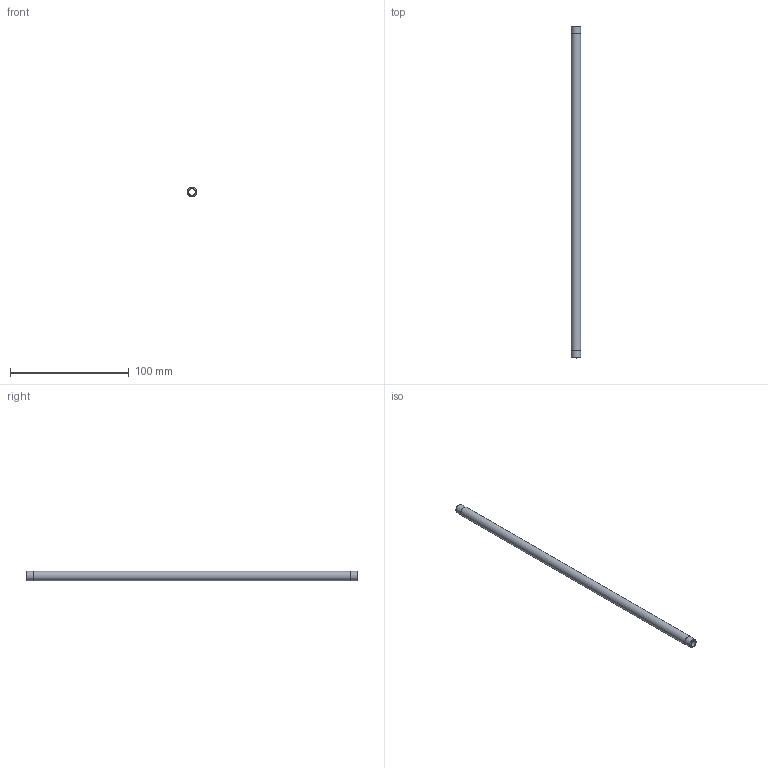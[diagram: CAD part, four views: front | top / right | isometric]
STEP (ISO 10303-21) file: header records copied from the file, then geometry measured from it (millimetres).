
FILE_DESCRIPTION(/* description */ (''),/* implementation_level */ '2;1');
FILE_NAME(/* name */ 'C:/Users/drich/Desktop/BPN16-11 v1.step',/* time_stamp */ '2020-01-03T14:43:46-06:00',/* author */ (''),/* organization */ (''),/* preprocessor_version */ 'ST-DEVELOPER v18',/* originating_system */ 'Autodesk Translation Framework v8.12.0.6',/* authorisation */ '');
FILE_SCHEMA (('AUTOMOTIVE_DESIGN { 1 0 10303 214 3 1 1 }'));
Length unit declared in the file: inch
Products named in the file (1): BPN16-11
Bounding box: 7.92 x 279.4 x 7.92 mm (x, y, z)
Volume: 7575.8 mm3; surface area: 11644.5 mm2
Topology: 1 solids, 1 shells, 10 faces, 24 edges, 18 vertices
Faces by surface type: cylinder 4, plane 4, cone 2
Full cylindrical faces by diameter (mm): 5.309 x1, 7.874 x2, 7.925 x1
Entity records: 360 total; most frequent: DIRECTION 64, CARTESIAN_POINT 53, ORIENTED_EDGE 48, AXIS2_PLACEMENT_3D 29, EDGE_CURVE 24, CIRCLE 18, VERTEX_POINT 18, EDGE_LOOP 14
